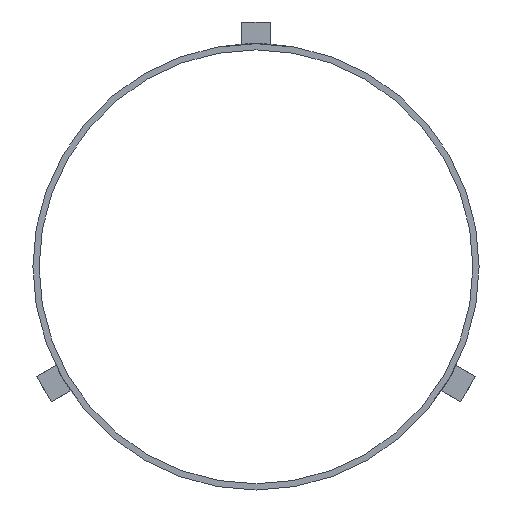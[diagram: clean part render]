
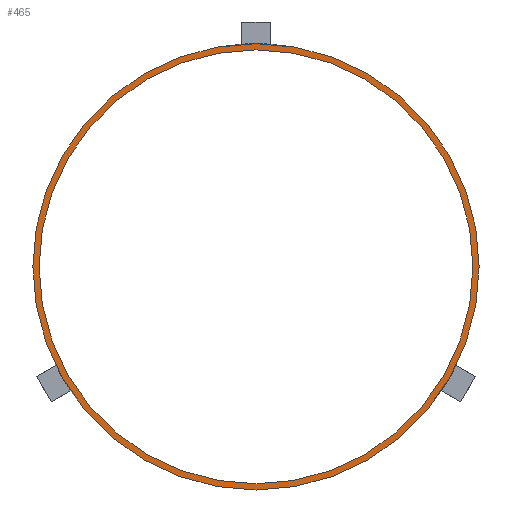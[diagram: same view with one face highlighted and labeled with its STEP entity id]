
A CAD part, left-side view. The second image highlights one B-rep face of the part: STEP entity #465.
In plain terms, the highlighted planar face has unit normal (-1, 0, 0).
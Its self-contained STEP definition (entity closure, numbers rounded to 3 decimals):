
#21 = EDGE_CURVE('',#22,#22,#24,.T.);
#22 = VERTEX_POINT('',#23);
#23 = CARTESIAN_POINT('',(-34.9,108.,0.));
#24 = SURFACE_CURVE('',#25,(#30,#42),.PCURVE_S1.);
#25 = CIRCLE('',#26,108.);
#26 = AXIS2_PLACEMENT_3D('',#27,#28,#29);
#27 = CARTESIAN_POINT('',(-34.9,0.,0.));
#28 = DIRECTION('',(1.,0.,0.));
#29 = DIRECTION('',(0.,1.,0.));
#30 = PCURVE('',#31,#36);
#31 = CYLINDRICAL_SURFACE('',#32,108.);
#32 = AXIS2_PLACEMENT_3D('',#33,#34,#35);
#33 = CARTESIAN_POINT('',(-34.9,0.,0.));
#34 = DIRECTION('',(-1.,-0.,-0.));
#35 = DIRECTION('',(0.,1.,0.));
#36 = DEFINITIONAL_REPRESENTATION('',(#37),#41);
#37 = LINE('',#38,#39);
#38 = CARTESIAN_POINT('',(-0.,0.));
#39 = VECTOR('',#40,1.);
#40 = DIRECTION('',(-1.,0.));
#41 = ( GEOMETRIC_REPRESENTATION_CONTEXT(2) 
PARAMETRIC_REPRESENTATION_CONTEXT() REPRESENTATION_CONTEXT('2D SPACE',''
  ) );
#42 = PCURVE('',#43,#48);
#43 = PLANE('',#44);
#44 = AXIS2_PLACEMENT_3D('',#45,#46,#47);
#45 = CARTESIAN_POINT('',(-34.9,0.,0.));
#46 = DIRECTION('',(1.,0.,0.));
#47 = DIRECTION('',(-0.,0.,1.));
#48 = DEFINITIONAL_REPRESENTATION('',(#49),#53);
#49 = CIRCLE('',#50,108.);
#50 = AXIS2_PLACEMENT_2D('',#51,#52);
#51 = CARTESIAN_POINT('',(0.,0.));
#52 = DIRECTION('',(0.,-1.));
#53 = ( GEOMETRIC_REPRESENTATION_CONTEXT(2) 
PARAMETRIC_REPRESENTATION_CONTEXT() REPRESENTATION_CONTEXT('2D SPACE',''
  ) );
#465 = ADVANCED_FACE('',(#466,#469),#43,.F.);
#466 = FACE_BOUND('',#467,.F.);
#467 = EDGE_LOOP('',(#468));
#468 = ORIENTED_EDGE('',*,*,#21,.T.);
#469 = FACE_BOUND('',#470,.F.);
#470 = EDGE_LOOP('',(#471));
#471 = ORIENTED_EDGE('',*,*,#472,.F.);
#472 = EDGE_CURVE('',#473,#473,#475,.T.);
#473 = VERTEX_POINT('',#474);
#474 = CARTESIAN_POINT('',(-34.9,105.,0.));
#475 = SURFACE_CURVE('',#476,(#481,#488),.PCURVE_S1.);
#476 = CIRCLE('',#477,105.);
#477 = AXIS2_PLACEMENT_3D('',#478,#479,#480);
#478 = CARTESIAN_POINT('',(-34.9,0.,0.)
  );
#479 = DIRECTION('',(1.,0.,0.));
#480 = DIRECTION('',(0.,1.,0.));
#481 = PCURVE('',#43,#482);
#482 = DEFINITIONAL_REPRESENTATION('',(#483),#487);
#483 = CIRCLE('',#484,105.);
#484 = AXIS2_PLACEMENT_2D('',#485,#486);
#485 = CARTESIAN_POINT('',(0.,0.));
#486 = DIRECTION('',(0.,-1.));
#487 = ( GEOMETRIC_REPRESENTATION_CONTEXT(2) 
PARAMETRIC_REPRESENTATION_CONTEXT() REPRESENTATION_CONTEXT('2D SPACE',''
  ) );
#488 = PCURVE('',#489,#494);
#489 = CYLINDRICAL_SURFACE('',#490,105.);
#490 = AXIS2_PLACEMENT_3D('',#491,#492,#493);
#491 = CARTESIAN_POINT('',(-34.9,0.,0.)
  );
#492 = DIRECTION('',(-1.,-0.,-0.));
#493 = DIRECTION('',(0.,1.,0.));
#494 = DEFINITIONAL_REPRESENTATION('',(#495),#499);
#495 = LINE('',#496,#497);
#496 = CARTESIAN_POINT('',(-0.,0.));
#497 = VECTOR('',#498,1.);
#498 = DIRECTION('',(-1.,0.));
#499 = ( GEOMETRIC_REPRESENTATION_CONTEXT(2) 
PARAMETRIC_REPRESENTATION_CONTEXT() REPRESENTATION_CONTEXT('2D SPACE',''
  ) );
